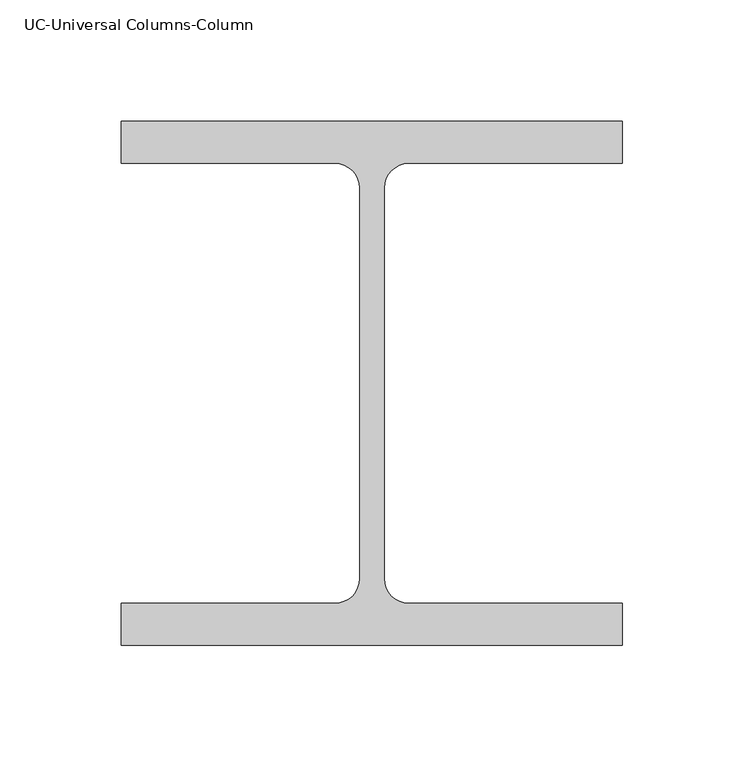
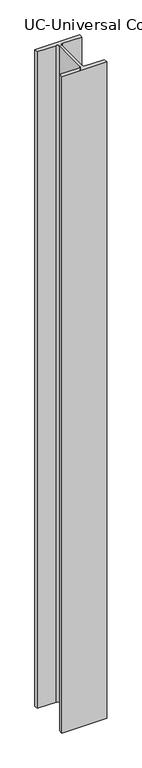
"""IFC4 building model written with IfcOpenShell, lengths in millimetres: column geometry."""

from ifc_helpers import new_model, si_unit, point, frame, frame_2d, origin, place, context, project, spatial, polyline, circle_curve, trimmed, segment, composite_curve, outline, extrude, source, transform, mapped, element, save


def uc_universal_columns_column_df0e8a14(model_context):
    return source(origin(), model_context, "Body", "SweptSolid", [
        extrude(outline(composite_curve([segment(polyline([(103.2, 107.9), (103.2, 90.6), (15.2, 90.6)]), True, "CONTINUOUS"), segment(trimmed(circle_curve(frame_2d((15.2, 80.4)), 10.2), [point((15.2, 90.6))], [point((5.0, 80.4))], True, "CARTESIAN"), True, "CONTINUOUS"), segment(polyline([(5.0, 80.4), (5.0, -80.4)]), True, "CONTINUOUS"), segment(trimmed(circle_curve(frame_2d((15.2, -80.4)), 10.2), [point((5.0, -80.4))], [point((15.2, -90.6))], True, "CARTESIAN"), True, "CONTINUOUS"), segment(polyline([(15.2, -90.6), (103.2, -90.6), (103.2, -107.9), (-103.2, -107.9), (-103.2, -90.6), (-15.2, -90.6)]), True, "CONTINUOUS"), segment(trimmed(circle_curve(frame_2d((-15.2, -80.4)), 10.2), [point((-15.2, -90.6))], [point((-5.0, -80.4))], True, "CARTESIAN"), True, "CONTINUOUS"), segment(polyline([(-5.0, -80.4), (-5.0, 80.4)]), True, "CONTINUOUS"), segment(trimmed(circle_curve(frame_2d((-15.2, 80.4)), 10.2), [point((-5.0, 80.4))], [point((-15.2, 90.6))], True, "CARTESIAN"), True, "CONTINUOUS"), segment(polyline([(-15.2, 90.6), (-103.2, 90.6), (-103.2, 107.9), (103.2, 107.9)]), True, "CONTINUOUS")], self_intersect=False)), frame((0.0, 0.0, 8495.0), z_axis=(0.0, 0.0, 1.0), x_axis=(1.0, 0.0, 0.0)), (0.0, 0.0, 1.0), 3205.0),
    ])


if __name__ == "__main__":
    model = new_model("IFC4")
    model_context = context("Model", 3, world=origin())
    ifc_project = project(units=[si_unit("LENGTHUNIT", "METRE", prefix="MILLI")], contexts=[model_context])
    site = spatial("IfcSite", under=ifc_project)
    building = spatial("IfcBuilding", under=site)
    placement = place(None, origin())
    uc_universal_columns_column_shape = uc_universal_columns_column_df0e8a14(model_context)
    element("IfcColumn", 1, ObjectType="UC-Universal Columns-Column : UC 8\" x 8\" x 3\"", at=placement, inside=building, context=model_context, shape_type="MappedRepresentation", body=[
        mapped(uc_universal_columns_column_shape, transform((0.0, 0.0, 0.0), x_axis=(1.0, 0.0, 0.0), y_axis=(0.0, 1.0, 0.0), z_axis=(0.0, 0.0, 1.0))),
    ])
    save(model, "model.ifc")
